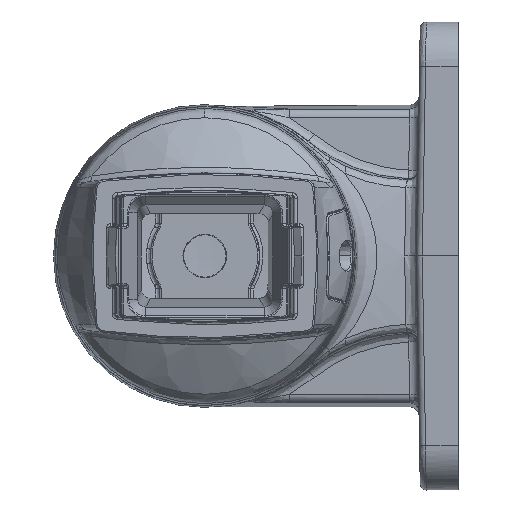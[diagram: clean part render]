
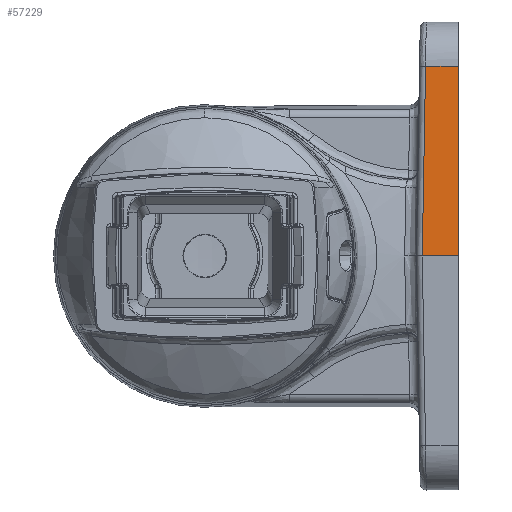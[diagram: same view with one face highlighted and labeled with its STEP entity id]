
A CAD part, front view. The second image highlights one B-rep face of the part: STEP entity #57229.
In plain terms, the highlighted planar face has unit normal (0, -1, 0.018).
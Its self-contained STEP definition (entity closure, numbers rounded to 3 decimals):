
#130 = VERTEX_POINT ( 'NONE', #78986 ) ;
#1571 = DIRECTION ( 'NONE',  ( -1., 0., 0. ) ) ;
#3154 = LINE ( 'NONE', #87349, #38823 ) ;
#5354 = PLANE ( 'NONE',  #33571 ) ;
#5593 = EDGE_CURVE ( 'NONE', #48727, #24992, #16626, .T. ) ;
#7027 = DIRECTION ( 'NONE',  ( 0.017, 0.017, 1. ) ) ;
#8045 = EDGE_CURVE ( 'NONE', #89331, #130, #3154, .T. ) ;
#8315 = VECTOR ( 'NONE', #7027, 1000. ) ;
#12370 = CARTESIAN_POINT ( 'NONE',  ( 102.252, -28.065, 1.924 ) ) ;
#12536 = DIRECTION ( 'NONE',  ( 0., -1., 0.017 ) ) ;
#13094 = DIRECTION ( 'NONE',  ( 0., 0.017, 1. ) ) ;
#13243 = ORIENTED_EDGE ( 'NONE', *, *, #5593, .T. ) ;
#13334 = EDGE_LOOP ( 'NONE', ( #68816, #52001, #13243, #64524 ) ) ;
#16626 = LINE ( 'NONE', #12370, #35528 ) ;
#16805 = EDGE_CURVE ( 'NONE', #24992, #89331, #22741, .T. ) ;
#22741 = LINE ( 'NONE', #55787, #43961 ) ;
#23604 = FACE_OUTER_BOUND ( 'NONE', #13334, .T. ) ;
#24992 = VERTEX_POINT ( 'NONE', #69610 ) ;
#33571 = AXIS2_PLACEMENT_3D ( 'NONE', #76492, #12536, #62381 ) ;
#35528 = VECTOR ( 'NONE', #68768, 1000. ) ;
#38823 = VECTOR ( 'NONE', #1571, 1000. ) ;
#43961 = VECTOR ( 'NONE', #13094, 1000. ) ;
#46450 = CARTESIAN_POINT ( 'NONE',  ( 116.252, -26.969, 64.686 ) ) ;
#48727 = VERTEX_POINT ( 'NONE', #53096 ) ;
#52001 = ORIENTED_EDGE ( 'NONE', *, *, #74574, .F. ) ;
#53096 = CARTESIAN_POINT ( 'NONE',  ( 104.252, -28.065, 1.924 ) ) ;
#54461 = CARTESIAN_POINT ( 'NONE',  ( 99.373, -32.944, -277.599 ) ) ;
#55787 = CARTESIAN_POINT ( 'NONE',  ( 116.252, -28.065, 1.924 ) ) ;
#57229 = ADVANCED_FACE ( 'NONE', ( #23604 ), #5354, .T. ) ;
#62381 = DIRECTION ( 'NONE',  ( 0., -0.017, -1. ) ) ;
#64524 = ORIENTED_EDGE ( 'NONE', *, *, #16805, .T. ) ;
#65167 = LINE ( 'NONE', #54461, #8315 ) ;
#68768 = DIRECTION ( 'NONE',  ( 1., 0., 0. ) ) ;
#68816 = ORIENTED_EDGE ( 'NONE', *, *, #8045, .T. ) ;
#69610 = CARTESIAN_POINT ( 'NONE',  ( 116.252, -28.065, 1.924 ) ) ;
#74574 = EDGE_CURVE ( 'NONE', #48727, #130, #65167, .T. ) ;
#76492 = CARTESIAN_POINT ( 'NONE',  ( 102.252, -28.065, 1.924 ) ) ;
#78986 = CARTESIAN_POINT ( 'NONE',  ( 105.347, -26.969, 64.686 ) ) ;
#87349 = CARTESIAN_POINT ( 'NONE',  ( 102.252, -26.969, 64.686 ) ) ;
#89331 = VERTEX_POINT ( 'NONE', #46450 ) ;
